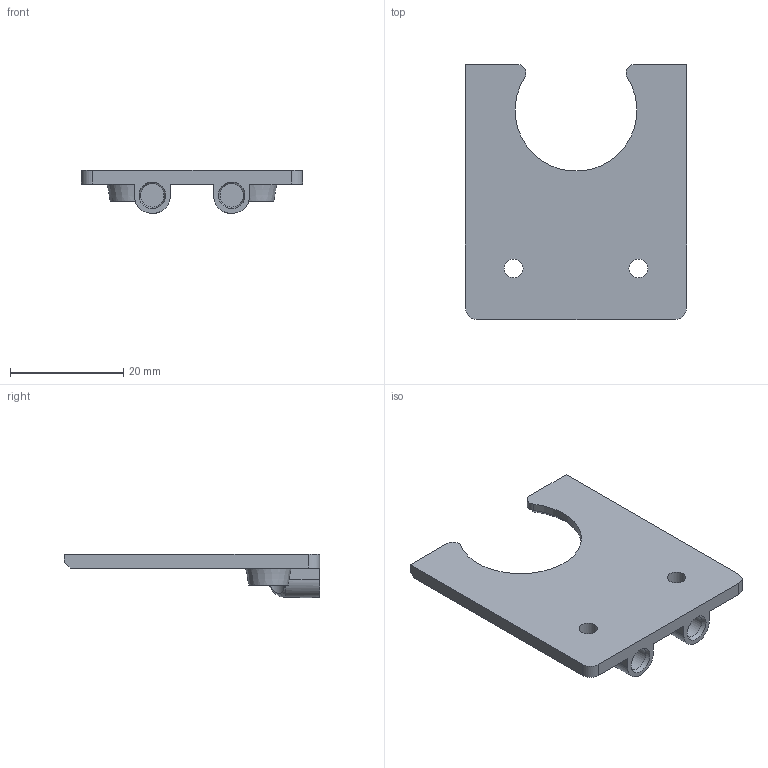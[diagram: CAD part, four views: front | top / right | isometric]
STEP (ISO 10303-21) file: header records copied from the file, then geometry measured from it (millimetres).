
FILE_DESCRIPTION(/* description */ (''),/* implementation_level */ '2;1');
FILE_NAME(/* name */ 'HMG7-E3D-Revo-Micro-Skirt.step',/* time_stamp */ '2022-11-01T22:19:17-07:00',/* author */ (''),/* organization */ (''),/* preprocessor_version */ 'ST-DEVELOPER v19.2',/* originating_system */ 'Autodesk Translation Framework v11.17.0.187',/* authorisation */ '');
FILE_SCHEMA (('AUTOMOTIVE_DESIGN { 1 0 10303 214 3 1 1 }'));
Length unit declared in the file: millimetre
Products named in the file (3): GEN_7_1.5; Revo_Micro; Revo_Micro_Skirt
Assembly tree (2 placements, depth 3):
  GEN_7_1.5
    Revo_Micro
      Revo_Micro_Skirt
Bounding box: 39 x 45.03 x 7.6 mm (x, y, z)
Volume: 3717.5 mm3; surface area: 3808.6 mm2
Topology: 1 solids, 1 shells, 47 faces, 121 edges, 78 vertices
Faces by surface type: plane 21, cylinder 17, cone 7, bspline 2
Full cylindrical faces by diameter (mm): 3.3 x2, 4.15 x2, 6 x2
Entity records: 1605 total; most frequent: CARTESIAN_POINT 363, DIRECTION 252, ORIENTED_EDGE 242, EDGE_CURVE 121, AXIS2_PLACEMENT_3D 95, VERTEX_POINT 78, LINE 62, VECTOR 62
